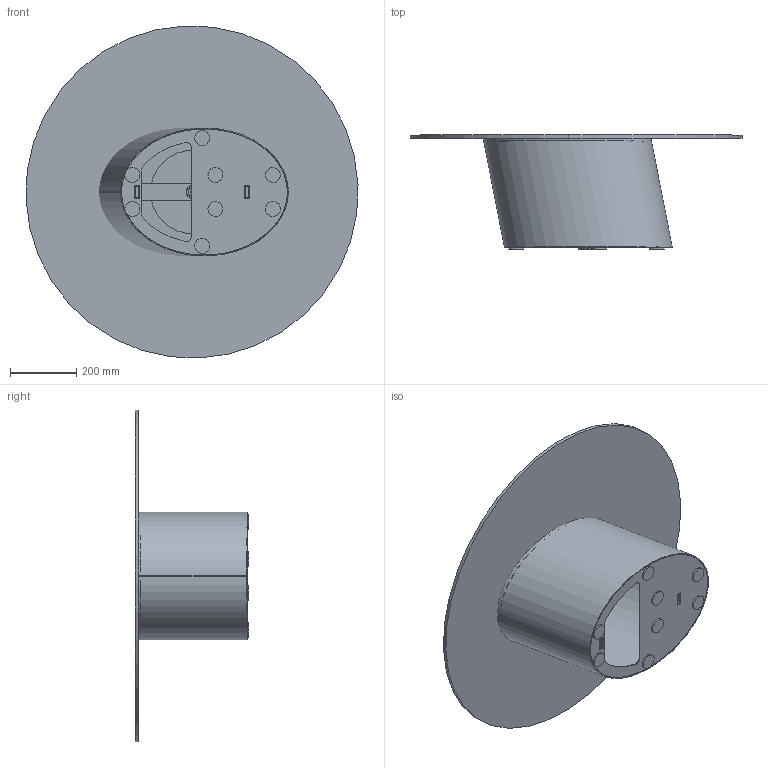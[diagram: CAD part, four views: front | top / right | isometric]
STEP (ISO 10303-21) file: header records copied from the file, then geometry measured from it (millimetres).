
FILE_DESCRIPTION (( 'STEP AP203' ), '1' );
FILE_NAME ('D103G.STEP', '2024-08-07T11:18:56', ( '' ), ( '' ), 'SwSTEP 2.0', 'SolidWorks 2022', '' );
FILE_SCHEMA (( 'CONFIG_CONTROL_DESIGN' ));
Length unit declared in the file: millimetre
Products named in the file (6): P0000003-00-STAFFA DI FISSAGGIO DIAMETRO 250_P0000003-250mm normale; Parte2^D103G; CXXCRXX-00-Piani Rotondi in Cristallo CON PIASTRA_C03P PIANO CRISTALLO D.100cm; Parte matrice basamento DORADO LOW H350_Default<A macchina>; D103G; C1XCRMXX-00-piani Rotondi Cristallo_C03 D.100cm
Assembly tree (12 placements, depth 3):
  D103G
    Parte matrice basamento DORADO LOW H350_Default<A macchina>
    Parte2^D103G  x8
    CXXCRXX-00-Piani Rotondi in Cristallo CON PIASTRA_C03P PIANO CRISTALLO D.100cm
      C1XCRMXX-00-piani Rotondi Cristallo_C03 D.100cm
      P0000003-00-STAFFA DI FISSAGGIO DIAMETRO 250_P0000003-250mm normale
Bounding box: 999.01 x 343 x 999.01 mm (x, y, z)
Volume: 10083240.6 mm3; surface area: 3163133.9 mm2
Topology: 17 solids, 17 shells, 179 faces, 433 edges, 288 vertices
Faces by surface type: plane 84, cylinder 75, bspline 14, cone 6
Entity records: 8477 total; most frequent: CARTESIAN_POINT 3900, ORIENTED_EDGE 782, DIRECTION 771, EDGE_CURVE 391, AXIS2_PLACEMENT_3D 279, VERTEX_POINT 260, LINE 213, VECTOR 213
